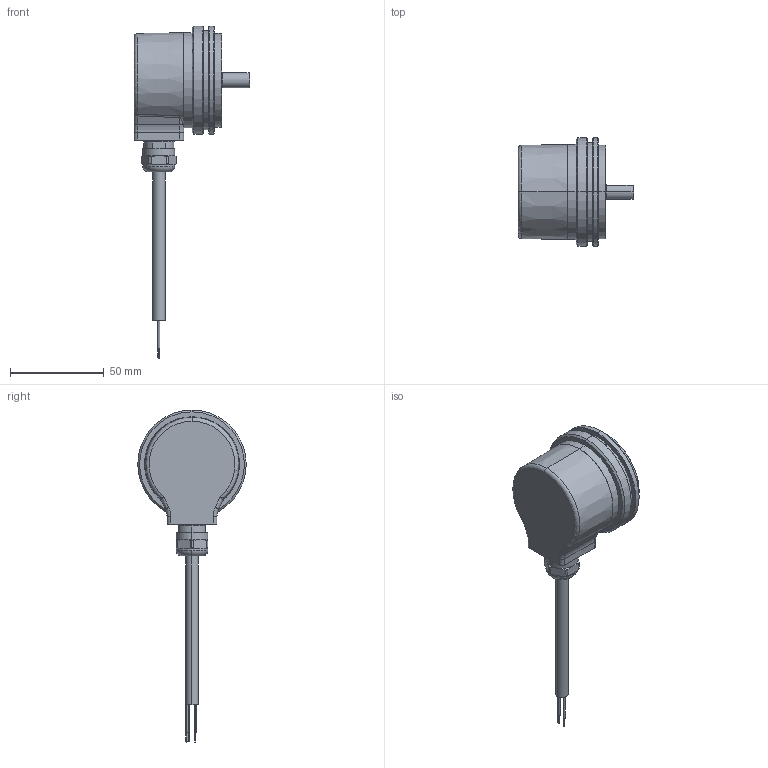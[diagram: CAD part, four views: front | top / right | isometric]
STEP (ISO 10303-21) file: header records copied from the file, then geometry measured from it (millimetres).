
FILE_DESCRIPTION (( 'STEP AP203' ), '1' );
FILE_NAME ('8.5000.A6X2.XXXX.STEP', '2017-04-05T07:43:38', ( '' ), ( '' ), 'SwSTEP 2.0', 'SolidWorks 2017', '' );
FILE_SCHEMA (( 'CONFIG_CONTROL_DESIGN' ));
Length unit declared in the file: millimetre
Products named in the file (1): 8.5000.A6X2.XXXX
Bounding box: 62 x 58 x 177.5 mm (x, y, z)
Volume: 67604.2 mm3; surface area: 36301.4 mm2
Topology: 13 solids, 13 shells, 373 faces, 807 edges, 480 vertices
Faces by surface type: cylinder 136, cone 93, plane 91, torus 45, bspline 8
Entity records: 10648 total; most frequent: CARTESIAN_POINT 2353, DIRECTION 1893, ORIENTED_EDGE 1578, AXIS2_PLACEMENT_3D 802, EDGE_CURVE 789, VERTEX_POINT 480, CIRCLE 436, EDGE_LOOP 421
